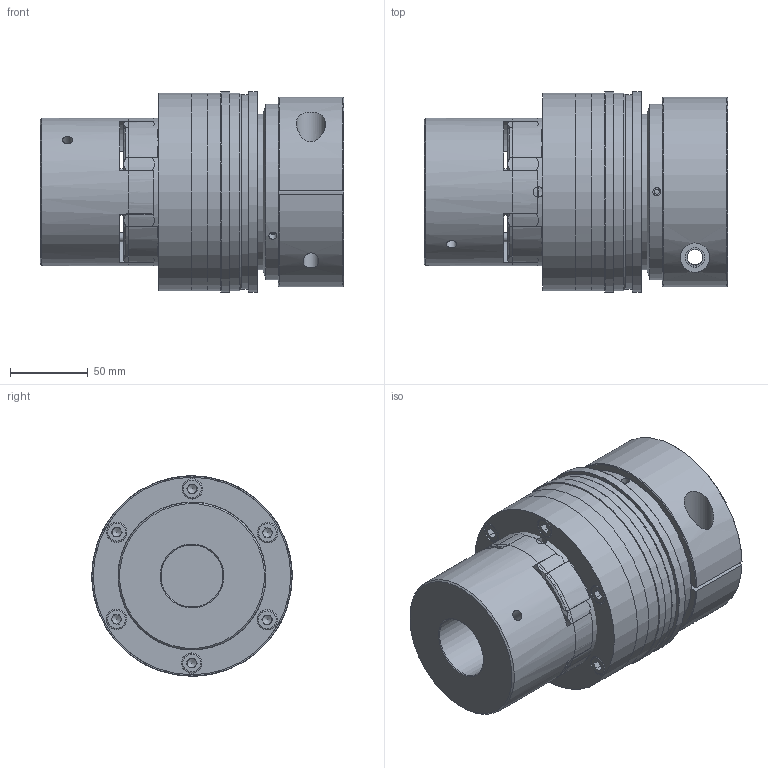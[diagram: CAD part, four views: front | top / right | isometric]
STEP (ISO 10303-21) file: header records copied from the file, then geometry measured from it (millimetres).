
FILE_DESCRIPTION( ( 'Unknown' ), '1' );
FILE_NAME( 'K:/Daten/homepage/cad - homepage/KBK-E-PK/KBK EPK-42.stp', 'Unknown', ( 'Unknown' ), ( 'Unknown' ), 'XStep 1.0', 'Unknown', ' ' );
FILE_SCHEMA( ( 'automotive_design' ) );
Length unit declared in the file: millimetre
Products named in the file (15): Assem1; Assem2; ball_bearing_-_6013_0_01; ball_bearing_-_6013_0_02; ball_bearing_-_6013_0_03; Stellring 500; Druckring 500; Flansch 500; a_65; Zahnkranz 42; KBE1-42 Nabe; KBK L-K-500 Grundkörper; Klemmnabe 500; Elastormerflansch 42; Socket Head Cap Screw_DIN_DIN 912 M8 x 30 --- 30C
Bounding box: 195 x 129 x 129 mm (x, y, z)
Volume: 3249707.9 mm3; surface area: 664244.2 mm2
Topology: 34 solids, 34 shells, 816 faces, 1861 edges, 1192 vertices
Faces by surface type: cylinder 306, plane 253, cone 212, torus 45
Full cylindrical faces by diameter (mm): 3 x4, 3.242 x6, 5.1 x6, 5.2 x6, 6 x16, 6.647 x14, 8 x7, 8.2 x12, 10.106 x2, 12.5 x2, 13 x7, 13.1 x12, 19 x2, 35 x2, 40 x4, 46 x4, 62 x2, 65 x7, 70 x2, 76.3 x6, 86 x4, 89.1 x6, 91 x2, 95 x2, 100 x7, 104.5 x2, 113 x2, 114 x2, 125 x4, 127 x2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
Entity records: 10290 total; most frequent: CARTESIAN_POINT 2456, DIRECTION 1660, ORIENTED_EDGE 1282, AXIS2_PLACEMENT_3D 770, EDGE_CURVE 641, EDGE_LOOP 546, VERTEX_POINT 476, FACE_OUTER_BOUND 430
